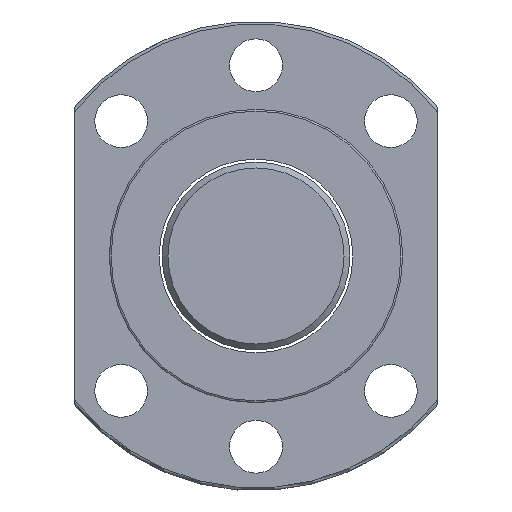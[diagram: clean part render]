
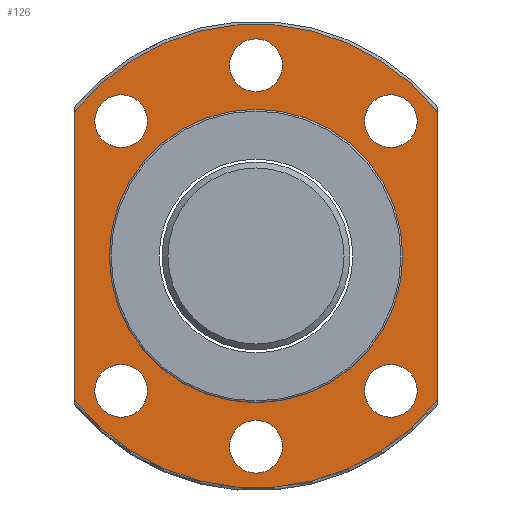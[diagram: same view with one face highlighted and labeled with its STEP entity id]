
A CAD part, left-side view. The second image highlights one B-rep face of the part: STEP entity #126.
In plain terms, the highlighted planar face has unit normal (-1, 0, 0).
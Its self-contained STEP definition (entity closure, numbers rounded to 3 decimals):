
#126=ADVANCED_FACE('',(#193,#194,#195,#196,#197,#198,#199,#161),#153,.T.);
#153=PLANE('',#510);
#161=FACE_OUTER_BOUND('',#240,.T.);
#177=LINE('',#703,#185);
#178=LINE('',#707,#186);
#185=VECTOR('',#577,1.);
#186=VECTOR('',#580,1.);
#193=FACE_BOUND('',#233,.T.);
#194=FACE_BOUND('',#234,.T.);
#195=FACE_BOUND('',#235,.T.);
#196=FACE_BOUND('',#236,.T.);
#197=FACE_BOUND('',#237,.T.);
#198=FACE_BOUND('',#238,.T.);
#199=FACE_BOUND('',#239,.T.);
#233=EDGE_LOOP('',(#289));
#234=EDGE_LOOP('',(#290));
#235=EDGE_LOOP('',(#291));
#236=EDGE_LOOP('',(#292));
#237=EDGE_LOOP('',(#293));
#238=EDGE_LOOP('',(#294));
#239=EDGE_LOOP('',(#295));
#240=EDGE_LOOP('',(#296,#297,#298,#299));
#289=ORIENTED_EDGE('',*,*,#422,.T.);
#290=ORIENTED_EDGE('',*,*,#423,.F.);
#291=ORIENTED_EDGE('',*,*,#424,.F.);
#292=ORIENTED_EDGE('',*,*,#425,.F.);
#293=ORIENTED_EDGE('',*,*,#426,.F.);
#294=ORIENTED_EDGE('',*,*,#427,.F.);
#295=ORIENTED_EDGE('',*,*,#428,.F.);
#296=ORIENTED_EDGE('',*,*,#429,.F.);
#297=ORIENTED_EDGE('',*,*,#430,.T.);
#298=ORIENTED_EDGE('',*,*,#431,.F.);
#299=ORIENTED_EDGE('',*,*,#432,.F.);
#383=VERTEX_POINT('',#687);
#384=VERTEX_POINT('',#689);
#385=VERTEX_POINT('',#691);
#386=VERTEX_POINT('',#693);
#387=VERTEX_POINT('',#695);
#388=VERTEX_POINT('',#697);
#389=VERTEX_POINT('',#699);
#390=VERTEX_POINT('',#701);
#391=VERTEX_POINT('',#702);
#392=VERTEX_POINT('',#704);
#393=VERTEX_POINT('',#706);
#422=EDGE_CURVE('',#383,#383,#469,.T.);
#423=EDGE_CURVE('',#384,#384,#470,.T.);
#424=EDGE_CURVE('',#385,#385,#471,.T.);
#425=EDGE_CURVE('',#386,#386,#472,.T.);
#426=EDGE_CURVE('',#387,#387,#473,.T.);
#427=EDGE_CURVE('',#388,#388,#474,.T.);
#428=EDGE_CURVE('',#389,#389,#475,.T.);
#429=EDGE_CURVE('',#390,#391,#476,.T.);
#430=EDGE_CURVE('',#390,#392,#177,.T.);
#431=EDGE_CURVE('',#393,#392,#477,.T.);
#432=EDGE_CURVE('',#391,#393,#178,.T.);
#469=CIRCLE('',#501,25.);
#470=CIRCLE('',#502,4.5);
#471=CIRCLE('',#503,4.5);
#472=CIRCLE('',#504,4.5);
#473=CIRCLE('',#505,4.5);
#474=CIRCLE('',#506,4.5);
#475=CIRCLE('',#507,4.5);
#476=CIRCLE('',#508,39.5);
#477=CIRCLE('',#509,39.5);
#501=AXIS2_PLACEMENT_3D('',#686,#561,#562);
#502=AXIS2_PLACEMENT_3D('',#688,#563,#564);
#503=AXIS2_PLACEMENT_3D('',#690,#565,#566);
#504=AXIS2_PLACEMENT_3D('',#692,#567,#568);
#505=AXIS2_PLACEMENT_3D('',#694,#569,#570);
#506=AXIS2_PLACEMENT_3D('',#696,#571,#572);
#507=AXIS2_PLACEMENT_3D('',#698,#573,#574);
#508=AXIS2_PLACEMENT_3D('',#700,#575,#576);
#509=AXIS2_PLACEMENT_3D('',#705,#578,#579);
#510=AXIS2_PLACEMENT_3D('',#708,#581,#582);
#561=DIRECTION('',(1.,0.,0.));
#562=DIRECTION('',(0.,1.,0.));
#563=DIRECTION('',(-1.,0.,0.));
#564=DIRECTION('',(0.,-1.,0.));
#565=DIRECTION('',(-1.,0.,0.));
#566=DIRECTION('',(0.,-1.,0.));
#567=DIRECTION('',(-1.,0.,0.));
#568=DIRECTION('',(0.,-1.,0.));
#569=DIRECTION('',(-1.,0.,0.));
#570=DIRECTION('',(0.,-1.,0.));
#571=DIRECTION('',(-1.,0.,0.));
#572=DIRECTION('',(0.,-1.,0.));
#573=DIRECTION('',(-1.,0.,0.));
#574=DIRECTION('',(0.,-1.,0.));
#575=DIRECTION('',(1.,0.,0.));
#576=DIRECTION('',(0.,1.,0.));
#577=DIRECTION('',(0.,0.,-1.));
#578=DIRECTION('',(1.,0.,0.));
#579=DIRECTION('',(0.,1.,0.));
#580=DIRECTION('',(0.,0.,-1.));
#581=DIRECTION('',(-1.,0.,0.));
#582=DIRECTION('',(0.,-1.,0.));
#686=CARTESIAN_POINT('',(-6.284,0.,0.));
#687=CARTESIAN_POINT('',(-6.284,25.,0.));
#688=CARTESIAN_POINT('',(-6.284,22.981,22.981));
#689=CARTESIAN_POINT('',(-6.284,18.481,22.981));
#690=CARTESIAN_POINT('',(-6.284,-22.981,22.981));
#691=CARTESIAN_POINT('',(-6.284,-27.481,22.981));
#692=CARTESIAN_POINT('',(-6.284,-22.981,-22.981));
#693=CARTESIAN_POINT('',(-6.284,-27.481,-22.981));
#694=CARTESIAN_POINT('',(-6.284,22.981,-22.981));
#695=CARTESIAN_POINT('',(-6.284,18.481,-22.981));
#696=CARTESIAN_POINT('',(-6.284,0.,32.5));
#697=CARTESIAN_POINT('',(-6.284,-4.5,32.5));
#698=CARTESIAN_POINT('',(-6.284,0.,-32.5));
#699=CARTESIAN_POINT('',(-6.284,-4.5,-32.5));
#700=CARTESIAN_POINT('',(-6.284,0.,0.));
#701=CARTESIAN_POINT('',(-6.284,31.,24.48));
#702=CARTESIAN_POINT('',(-6.284,-31.,24.48));
#703=CARTESIAN_POINT('',(-6.284,31.,0.));
#704=CARTESIAN_POINT('',(-6.284,31.,-24.48));
#705=CARTESIAN_POINT('',(-6.284,0.,0.));
#706=CARTESIAN_POINT('',(-6.284,-31.,-24.48));
#707=CARTESIAN_POINT('',(-6.284,-31.,0.));
#708=CARTESIAN_POINT('',(-6.284,32.25,0.));
